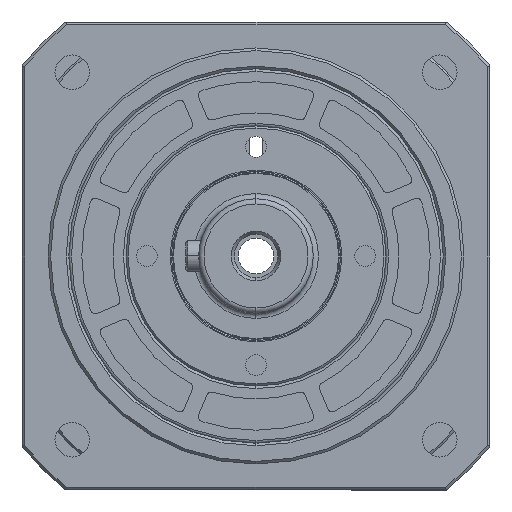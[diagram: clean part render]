
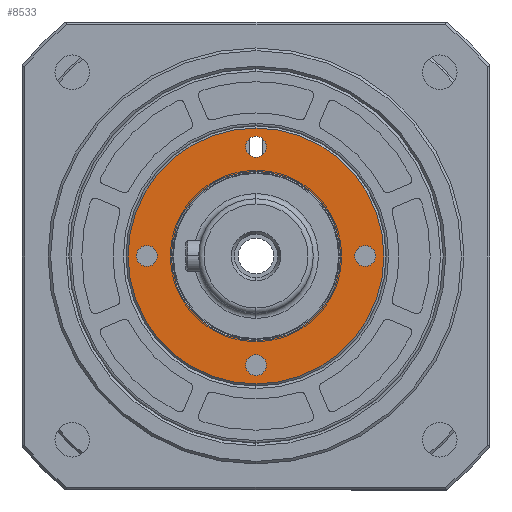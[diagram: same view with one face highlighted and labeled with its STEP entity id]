
A CAD part, left-side view. The second image highlights one B-rep face of the part: STEP entity #8533.
In plain terms, the highlighted planar face has unit normal (-1, 0, 0).
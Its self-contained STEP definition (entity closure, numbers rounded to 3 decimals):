
#189 = CIRCLE ( 'NONE', #5692, 2. ) ;
#340 = CIRCLE ( 'NONE', #5647, 2. ) ;
#698 = DIRECTION ( 'NONE',  ( 0., 0., -1. ) ) ;
#725 = CARTESIAN_POINT ( 'NONE',  ( -5.11, 17.03, 0. ) ) ;
#777 = DIRECTION ( 'NONE',  ( 1., 0., 0. ) ) ;
#1219 = PLANE ( 'NONE',  #7091 ) ;
#1580 = CIRCLE ( 'NONE', #9076, 2. ) ;
#1637 = CIRCLE ( 'NONE', #9041, 2. ) ;
#2196 = CARTESIAN_POINT ( 'NONE',  ( -5.11, -19.845, -2. ) ) ;
#2356 = CARTESIAN_POINT ( 'NONE',  ( -5.11, 1.155, -19. ) ) ;
#3051 = CARTESIAN_POINT ( 'NONE',  ( -5.11, 1.155, -23. ) ) ;
#3673 = CIRCLE ( 'NONE', #9040, 2. ) ;
#3803 = ORIENTED_EDGE ( 'NONE', *, *, #12540, .T. ) ;
#3829 = ORIENTED_EDGE ( 'NONE', *, *, #12739, .F. ) ;
#3831 = ORIENTED_EDGE ( 'NONE', *, *, #12288, .T. ) ;
#3846 = EDGE_LOOP ( 'NONE', ( #3831, #4170 ) ) ;
#3985 = ORIENTED_EDGE ( 'NONE', *, *, #12495, .F. ) ;
#4028 = EDGE_LOOP ( 'NONE', ( #4068, #3985 ) ) ;
#4029 = EDGE_LOOP ( 'NONE', ( #4273, #3829 ) ) ;
#4068 = ORIENTED_EDGE ( 'NONE', *, *, #4800, .F. ) ;
#4106 = ORIENTED_EDGE ( 'NONE', *, *, #4791, .F. ) ;
#4112 = ORIENTED_EDGE ( 'NONE', *, *, #12266, .T. ) ;
#4170 = ORIENTED_EDGE ( 'NONE', *, *, #12491, .T. ) ;
#4200 = EDGE_LOOP ( 'NONE', ( #4106, #4325 ) ) ;
#4244 = ORIENTED_EDGE ( 'NONE', *, *, #12690, .F. ) ;
#4267 = ORIENTED_EDGE ( 'NONE', *, *, #4688, .F. ) ;
#4273 = ORIENTED_EDGE ( 'NONE', *, *, #12505, .F. ) ;
#4325 = ORIENTED_EDGE ( 'NONE', *, *, #12348, .F. ) ;
#4688 = EDGE_CURVE ( 'NONE', #13090, #12956, #1580, .T. ) ;
#4791 = EDGE_CURVE ( 'NONE', #13020, #13133, #1637, .T. ) ;
#4800 = EDGE_CURVE ( 'NONE', #13131, #9782, #3673, .T. ) ;
#5609 = AXIS2_PLACEMENT_3D ( 'NONE', #11906, #12130, #12134 ) ;
#5637 = AXIS2_PLACEMENT_3D ( 'NONE', #9422, #9611, #9417 ) ;
#5638 = AXIS2_PLACEMENT_3D ( 'NONE', #9284, #9715, #9628 ) ;
#5647 = AXIS2_PLACEMENT_3D ( 'NONE', #13569, #13376, #13436 ) ;
#5692 = AXIS2_PLACEMENT_3D ( 'NONE', #6761, #6689, #6777 ) ;
#5710 = AXIS2_PLACEMENT_3D ( 'NONE', #9707, #9289, #9423 ) ;
#5715 = AXIS2_PLACEMENT_3D ( 'NONE', #9662, #9652, #9650 ) ;
#5857 = CIRCLE ( 'NONE', #5638, 2. ) ;
#5960 = FACE_BOUND ( 'NONE', #4200, .T. ) ;
#5961 = FACE_BOUND ( 'NONE', #4029, .T. ) ;
#5962 = FACE_BOUND ( 'NONE', #4028, .T. ) ;
#5963 = FACE_BOUND ( 'NONE', #14026, .T. ) ;
#5967 = CIRCLE ( 'NONE', #7025, 16.275 ) ;
#6067 = FACE_BOUND ( 'NONE', #14238, .T. ) ;
#6068 = FACE_OUTER_BOUND ( 'NONE', #3846, .T. ) ;
#6181 = CIRCLE ( 'NONE', #5637, 2. ) ;
#6209 = CIRCLE ( 'NONE', #5710, 24.6 ) ;
#6342 = CIRCLE ( 'NONE', #6941, 24.6 ) ;
#6429 = CIRCLE ( 'NONE', #5609, 2. ) ;
#6616 = CIRCLE ( 'NONE', #5715, 16.275 ) ;
#6689 = DIRECTION ( 'NONE',  ( -1., 0., 0. ) ) ;
#6761 = CARTESIAN_POINT ( 'NONE',  ( -5.11, 1.155, -21. ) ) ;
#6777 = DIRECTION ( 'NONE',  ( 0., 0., 1. ) ) ;
#6941 = AXIS2_PLACEMENT_3D ( 'NONE', #11955, #12128, #11956 ) ;
#7025 = AXIS2_PLACEMENT_3D ( 'NONE', #11993, #12171, #12165 ) ;
#7091 = AXIS2_PLACEMENT_3D ( 'NONE', #725, #777, #698 ) ;
#8533 = ADVANCED_FACE ( 'NONE', ( #5963, #5960, #5961, #5962, #6068, #6067 ), #1219, .F. ) ;
#9040 = AXIS2_PLACEMENT_3D ( 'NONE', #11441, #11413, #11594 ) ;
#9041 = AXIS2_PLACEMENT_3D ( 'NONE', #11706, #11669, #11698 ) ;
#9076 = AXIS2_PLACEMENT_3D ( 'NONE', #10770, #11252, #10876 ) ;
#9284 = CARTESIAN_POINT ( 'NONE',  ( -5.11, -19.845, 0. ) ) ;
#9289 = DIRECTION ( 'NONE',  ( -1., 0., 0. ) ) ;
#9417 = DIRECTION ( 'NONE',  ( 0., 0., 1. ) ) ;
#9422 = CARTESIAN_POINT ( 'NONE',  ( -5.11, 1.155, -21. ) ) ;
#9423 = DIRECTION ( 'NONE',  ( 0., 0., -1. ) ) ;
#9611 = DIRECTION ( 'NONE',  ( -1., 0., 0. ) ) ;
#9628 = DIRECTION ( 'NONE',  ( 0., 0., 1. ) ) ;
#9650 = DIRECTION ( 'NONE',  ( 0., 0., -1. ) ) ;
#9652 = DIRECTION ( 'NONE',  ( 1., 0., 0. ) ) ;
#9662 = CARTESIAN_POINT ( 'NONE',  ( -5.11, 1.155, 0. ) ) ;
#9707 = CARTESIAN_POINT ( 'NONE',  ( -5.11, 1.155, 0. ) ) ;
#9715 = DIRECTION ( 'NONE',  ( -1., 0., 0. ) ) ;
#9782 = VERTEX_POINT ( 'NONE', #2196 ) ;
#9950 = VERTEX_POINT ( 'NONE', #2356 ) ;
#10011 = CARTESIAN_POINT ( 'NONE',  ( -5.11, 22.155, -2. ) ) ;
#10067 = CARTESIAN_POINT ( 'NONE',  ( -5.11, 1.155, 19. ) ) ;
#10121 = CARTESIAN_POINT ( 'NONE',  ( -5.11, 1.155, 16.275 ) ) ;
#10188 = VERTEX_POINT ( 'NONE', #3051 ) ;
#10224 = CARTESIAN_POINT ( 'NONE',  ( -5.11, 1.155, -16.275 ) ) ;
#10261 = CARTESIAN_POINT ( 'NONE',  ( -5.11, -19.845, 2. ) ) ;
#10287 = CARTESIAN_POINT ( 'NONE',  ( -5.11, 1.155, 24.6 ) ) ;
#10327 = CARTESIAN_POINT ( 'NONE',  ( -5.11, 22.155, 2. ) ) ;
#10379 = CARTESIAN_POINT ( 'NONE',  ( -5.11, 1.155, -24.6 ) ) ;
#10395 = CARTESIAN_POINT ( 'NONE',  ( -5.11, 1.155, 23. ) ) ;
#10770 = CARTESIAN_POINT ( 'NONE',  ( -5.11, 22.155, 0. ) ) ;
#10876 = DIRECTION ( 'NONE',  ( 0., 0., 1. ) ) ;
#11252 = DIRECTION ( 'NONE',  ( -1., 0., 0. ) ) ;
#11413 = DIRECTION ( 'NONE',  ( -1., 0., 0. ) ) ;
#11441 = CARTESIAN_POINT ( 'NONE',  ( -5.11, -19.845, 0. ) ) ;
#11594 = DIRECTION ( 'NONE',  ( 0., 0., 1. ) ) ;
#11669 = DIRECTION ( 'NONE',  ( -1., 0., 0. ) ) ;
#11698 = DIRECTION ( 'NONE',  ( 0., 0., 1. ) ) ;
#11706 = CARTESIAN_POINT ( 'NONE',  ( -5.11, 1.155, 21. ) ) ;
#11906 = CARTESIAN_POINT ( 'NONE',  ( -5.11, 1.155, 21. ) ) ;
#11955 = CARTESIAN_POINT ( 'NONE',  ( -5.11, 1.155, 0. ) ) ;
#11956 = DIRECTION ( 'NONE',  ( 0., 0., -1. ) ) ;
#11993 = CARTESIAN_POINT ( 'NONE',  ( -5.11, 1.155, 0. ) ) ;
#12128 = DIRECTION ( 'NONE',  ( -1., 0., 0. ) ) ;
#12130 = DIRECTION ( 'NONE',  ( -1., 0., 0. ) ) ;
#12134 = DIRECTION ( 'NONE',  ( 0., 0., 1. ) ) ;
#12165 = DIRECTION ( 'NONE',  ( 0., 0., -1. ) ) ;
#12171 = DIRECTION ( 'NONE',  ( 1., 0., 0. ) ) ;
#12266 = EDGE_CURVE ( 'NONE', #13150, #13065, #5967, .T. ) ;
#12288 = EDGE_CURVE ( 'NONE', #13098, #13071, #6342, .T. ) ;
#12348 = EDGE_CURVE ( 'NONE', #13133, #13020, #6429, .T. ) ;
#12491 = EDGE_CURVE ( 'NONE', #13071, #13098, #6209, .T. ) ;
#12495 = EDGE_CURVE ( 'NONE', #9782, #13131, #5857, .T. ) ;
#12505 = EDGE_CURVE ( 'NONE', #9950, #10188, #6181, .T. ) ;
#12540 = EDGE_CURVE ( 'NONE', #13065, #13150, #6616, .T. ) ;
#12690 = EDGE_CURVE ( 'NONE', #12956, #13090, #340, .T. ) ;
#12739 = EDGE_CURVE ( 'NONE', #10188, #9950, #189, .T. ) ;
#12956 = VERTEX_POINT ( 'NONE', #10011 ) ;
#13020 = VERTEX_POINT ( 'NONE', #10395 ) ;
#13065 = VERTEX_POINT ( 'NONE', #10121 ) ;
#13071 = VERTEX_POINT ( 'NONE', #10287 ) ;
#13090 = VERTEX_POINT ( 'NONE', #10327 ) ;
#13098 = VERTEX_POINT ( 'NONE', #10379 ) ;
#13131 = VERTEX_POINT ( 'NONE', #10261 ) ;
#13133 = VERTEX_POINT ( 'NONE', #10067 ) ;
#13150 = VERTEX_POINT ( 'NONE', #10224 ) ;
#13376 = DIRECTION ( 'NONE',  ( -1., 0., 0. ) ) ;
#13436 = DIRECTION ( 'NONE',  ( 0., 0., 1. ) ) ;
#13569 = CARTESIAN_POINT ( 'NONE',  ( -5.11, 22.155, 0. ) ) ;
#14026 = EDGE_LOOP ( 'NONE', ( #4267, #4244 ) ) ;
#14238 = EDGE_LOOP ( 'NONE', ( #3803, #4112 ) ) ;
